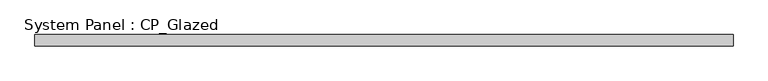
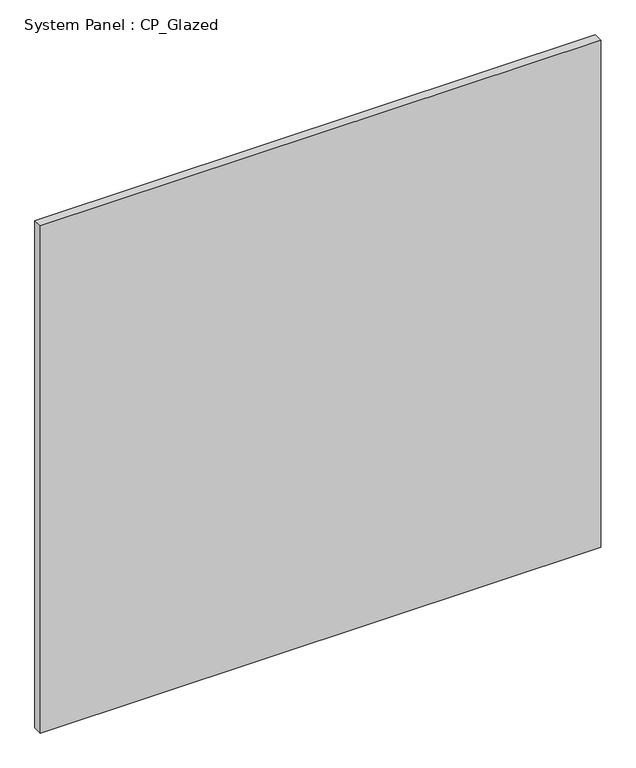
"""IFC4 building model written with IfcOpenShell, lengths in millimetres: plate geometry, System Panel : CP_Glazed."""

from ifc_helpers import new_model, si_unit, origin, origin_with_axes, place, context, project, spatial, polyline, outline, extrude, source, transform, mapped, element, save


def system_panel_cp_glazed_950159f1(model_context):
    return source(origin(), model_context, "Body", "SweptSolid", [
        extrude(outline(polyline([(773.1125, 19.05), (-773.1125, 19.05), (-773.1125, 44.45), (773.1125, 44.45), (773.1125, 19.05)])), origin_with_axes(), (0.0, 0.0, 1.0), 1479.55),
    ])


if __name__ == "__main__":
    model = new_model("IFC4")
    model_context = context("Model", 3, world=origin())
    ifc_project = project(units=[si_unit("LENGTHUNIT", "METRE", prefix="MILLI")], contexts=[model_context])
    site = spatial("IfcSite", under=ifc_project)
    building = spatial("IfcBuilding", under=site)
    placement = place(None, origin())
    system_panel_cp_glazed_shape = system_panel_cp_glazed_950159f1(model_context)
    element("IfcPlate", 1, ObjectType="System Panel : CP_Glazed", at=placement, inside=building, context=model_context, shape_type="MappedRepresentation", body=[
        mapped(system_panel_cp_glazed_shape, transform((0.0, 0.0, 0.0), x_axis=(1.0, 0.0, 0.0), y_axis=(0.0, 1.0, 0.0), z_axis=(0.0, 0.0, 1.0))),
    ])
    save(model, "model.ifc")
